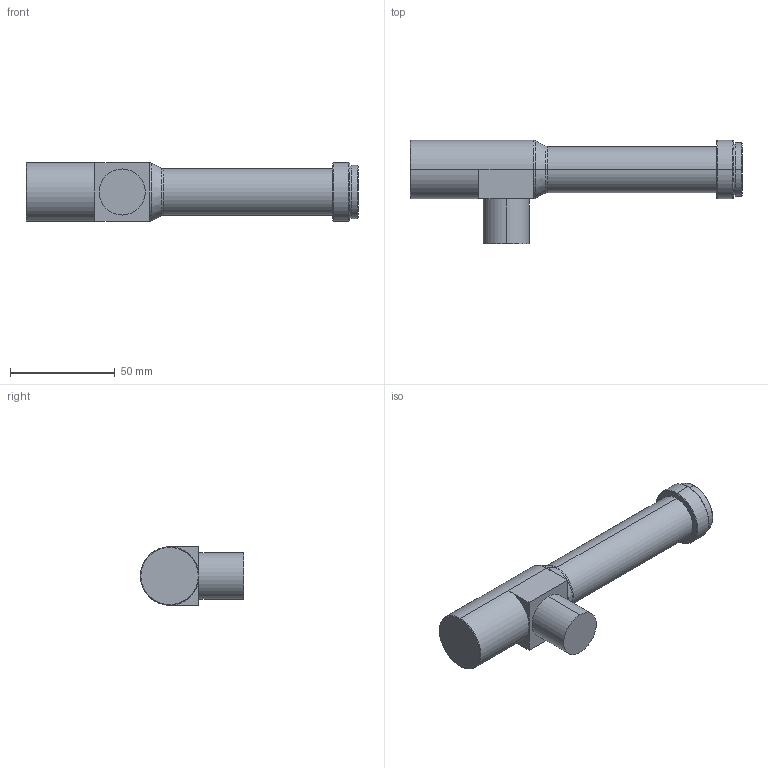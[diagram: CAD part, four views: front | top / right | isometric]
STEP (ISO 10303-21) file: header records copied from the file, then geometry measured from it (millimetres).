
FILE_DESCRIPTION (( 'STEP AP203' ), '1' );
FILE_NAME ('WWH60-63CTV3.STEP', '2021-05-11T01:45:54', ( 'Windows User' ), ( 'P R C' ), 'SwSTEP 2.0', 'SolidWorks 2017', '' );
FILE_SCHEMA (( 'CONFIG_CONTROL_DESIGN' ));
Length unit declared in the file: millimetre
Products named in the file (1): WWH60-63CTV3
Bounding box: 158.5 x 49.4 x 28 mm (x, y, z)
Volume: 87569.1 mm3; surface area: 15818.7 mm2
Topology: 1 solids, 1 shells, 40 faces, 80 edges, 46 vertices
Faces by surface type: cylinder 13, plane 13, cone 10, torus 4
Entity records: 1109 total; most frequent: DIRECTION 206, CARTESIAN_POINT 167, ORIENTED_EDGE 160, AXIS2_PLACEMENT_3D 85, EDGE_CURVE 80, VERTEX_POINT 46, CIRCLE 44, EDGE_LOOP 44
